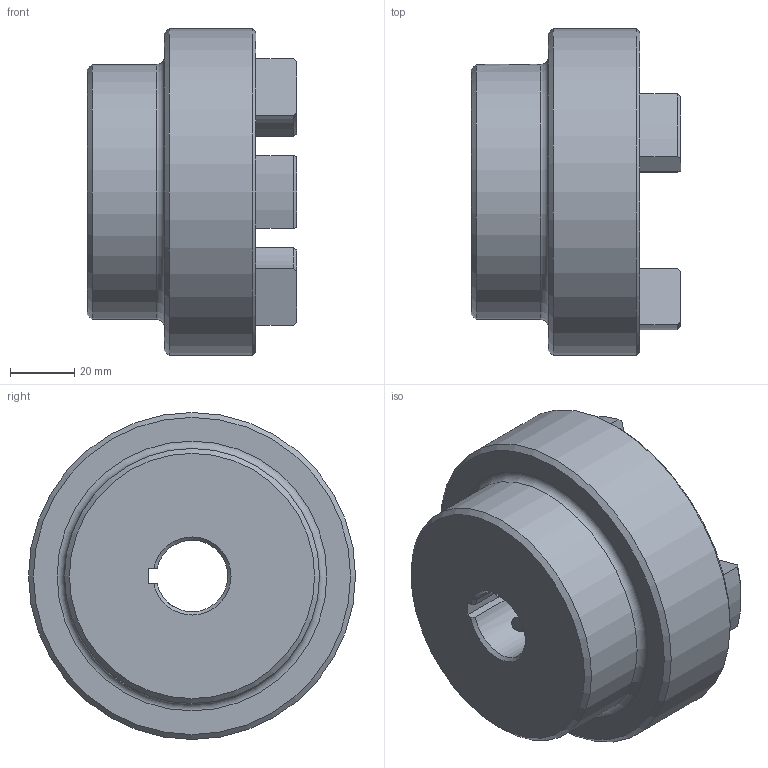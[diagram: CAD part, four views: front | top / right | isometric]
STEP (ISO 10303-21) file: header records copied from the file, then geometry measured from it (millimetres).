
FILE_DESCRIPTION (( 'STEP AP203' ), '1' );
FILE_NAME ('RC4.step', '2024-07-24T17:33:53', ( 'Adlan' ), ( '' ), 'SwSTEP 2.0', 'SolidWorks 2013', '' );
FILE_SCHEMA (( 'CONFIG_CONTROL_DESIGN' ));
Length unit declared in the file: inch
Products named in the file (1): RC4
Bounding box: 65.02 x 101.6 x 101.6 mm (x, y, z)
Volume: 264579.1 mm3; surface area: 41078.2 mm2
Topology: 1 solids, 1 shells, 70 faces, 180 edges, 113 vertices
Faces by surface type: cylinder 26, plane 19, torus 13, cone 12
Full cylindrical faces by diameter (mm): 5.105 x2, 79.248 x1, 101.6 x1
Entity records: 2365 total; most frequent: CARTESIAN_POINT 601, DIRECTION 370, ORIENTED_EDGE 332, EDGE_CURVE 166, AXIS2_PLACEMENT_3D 146, VERTEX_POINT 109, EDGE_LOOP 87, VECTOR 78
